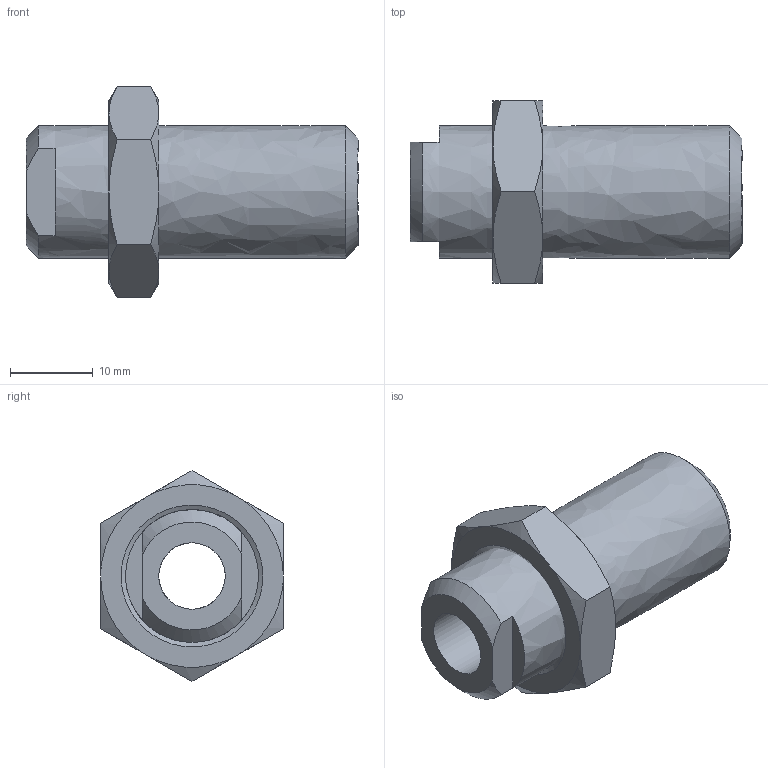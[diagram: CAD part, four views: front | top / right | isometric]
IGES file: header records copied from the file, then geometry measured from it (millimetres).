
Global section: file name: 03.22; native system: Autodesk Inventor 2014; preprocessor: unknown; author: APto; date: 20150401.091108; units: millimetre
Bounding box: 40 x 22 x 25.4 mm (x, y, z)
Volume: 7255.4 mm3; surface area: 4379.7 mm2
Topology: 2 solids, 2 shells, 34 faces, 78 edges, 48 vertices
Faces by surface type: bspline 34
